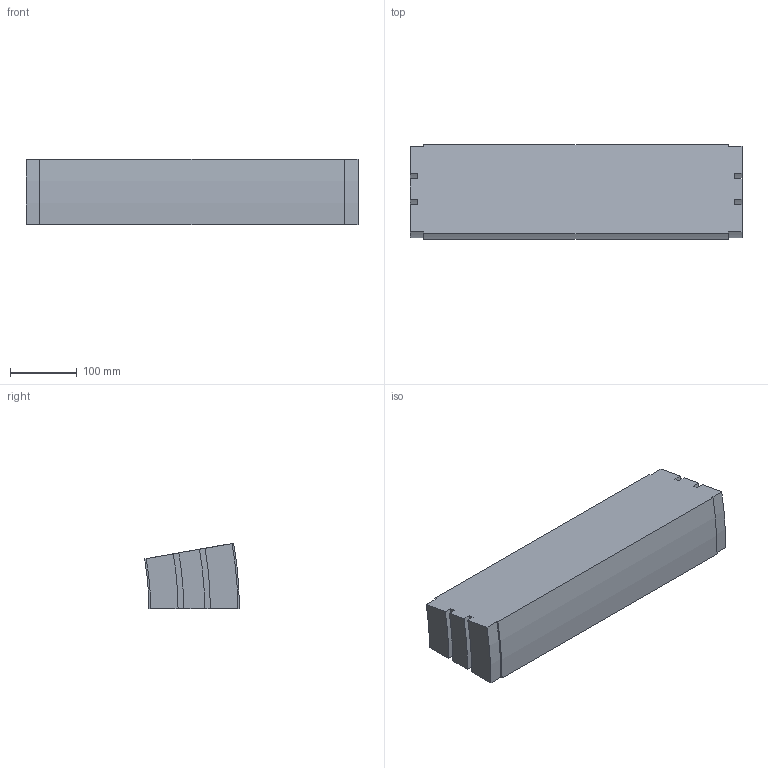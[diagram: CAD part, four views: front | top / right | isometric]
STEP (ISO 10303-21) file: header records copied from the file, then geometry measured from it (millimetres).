
FILE_DESCRIPTION (( 'STEP AP214' ), '1' );
FILE_NAME ('02.150V10.500.N FS-500-MTC-150 Bocht verticaal 10°.STEP', '2013-03-29T13:05:14', ( 'Gebruiker' ), ( '' ), 'SwSTEP 2.0', 'SolidWorks 2012', '' );
FILE_SCHEMA (( 'AUTOMOTIVE_DESIGN' ));
Length unit declared in the file: millimetre
Products named in the file (1): 02.150V10.500.N FS-500-MTC-150 Bocht verticaal 10°
Bounding box: 499 x 142.56 x 98.63 mm (x, y, z)
Volume: 5871287.6 mm3; surface area: 253067.9 mm2
Topology: 1 solids, 1 shells, 30 faces, 84 edges, 56 vertices
Faces by surface type: plane 16, cylinder 14
Entity records: 1010 total; most frequent: DIRECTION 174, CARTESIAN_POINT 171, ORIENTED_EDGE 168, EDGE_CURVE 84, AXIS2_PLACEMENT_3D 59, LINE 56, VECTOR 56, VERTEX_POINT 56
